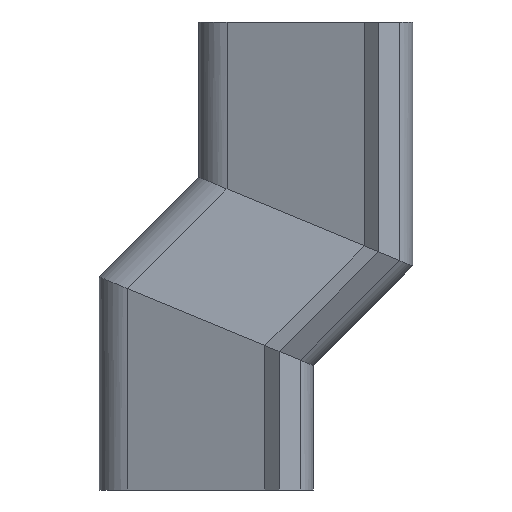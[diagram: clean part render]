
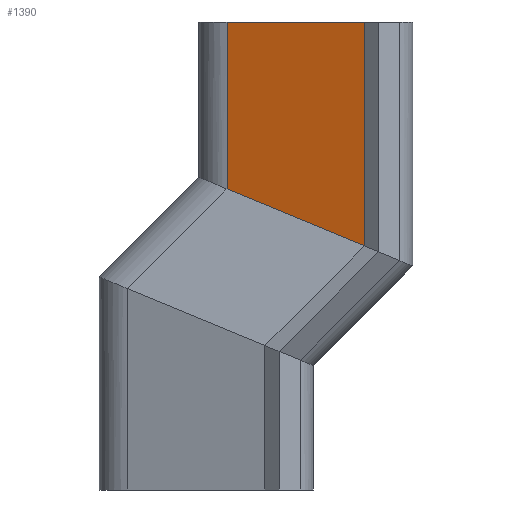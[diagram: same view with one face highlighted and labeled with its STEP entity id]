
A CAD part, left-side view. The second image highlights one B-rep face of the part: STEP entity #1390.
In plain terms, the highlighted planar face has unit normal (-0.929, 0.369, 0).
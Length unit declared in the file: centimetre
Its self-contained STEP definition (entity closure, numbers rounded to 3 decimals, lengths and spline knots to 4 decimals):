
#35=PLANE('',#1506);
#122=FACE_OUTER_BOUND('',#214,.T.);
#214=EDGE_LOOP('',(#1036,#1037,#1038,#1039));
#332=LINE('',#2195,#482);
#333=LINE('',#2198,#483);
#334=LINE('',#2200,#484);
#335=LINE('',#2201,#485);
#482=VECTOR('',#1760,0.1);
#483=VECTOR('',#1763,0.1);
#484=VECTOR('',#1764,0.1);
#485=VECTOR('',#1765,0.1);
#658=VERTEX_POINT('',#2191);
#659=VERTEX_POINT('',#2193);
#660=VERTEX_POINT('',#2197);
#661=VERTEX_POINT('',#2199);
#802=EDGE_CURVE('',#658,#659,#332,.T.);
#803=EDGE_CURVE('',#660,#658,#333,.T.);
#804=EDGE_CURVE('',#659,#661,#334,.T.);
#805=EDGE_CURVE('',#660,#661,#335,.T.);
#1036=ORIENTED_EDGE('',*,*,#803,.T.);
#1037=ORIENTED_EDGE('',*,*,#802,.T.);
#1038=ORIENTED_EDGE('',*,*,#804,.T.);
#1039=ORIENTED_EDGE('',*,*,#805,.F.);
#1390=ADVANCED_FACE('',(#122),#35,.T.);
#1506=AXIS2_PLACEMENT_3D('',#2196,#1761,#1762);
#1760=DIRECTION('',(0.,0.,1.));
#1761=DIRECTION('center_axis',(-0.929,0.369,0.));
#1762=DIRECTION('ref_axis',(0.,0.,1.));
#1763=DIRECTION('',(-0.345,-0.867,-0.359));
#1764=DIRECTION('',(0.369,0.929,0.));
#1765=DIRECTION('',(0.,0.,1.));
#2191=CARTESIAN_POINT('',(1.1581,154.3549,4.7963));
#2193=CARTESIAN_POINT('',(1.1581,154.3549,9.4));
#2195=CARTESIAN_POINT('',(1.1581,154.3549,4.5));
#2196=CARTESIAN_POINT('Origin',(1.1581,154.3549,4.5));
#2197=CARTESIAN_POINT('',(2.3572,157.372,6.046));
#2198=CARTESIAN_POINT('',(2.1509,156.853,5.831));
#2199=CARTESIAN_POINT('',(2.3572,157.372,9.4));
#2200=CARTESIAN_POINT('',(2.3572,157.372,9.4));
#2201=CARTESIAN_POINT('',(2.3572,157.372,4.5));
